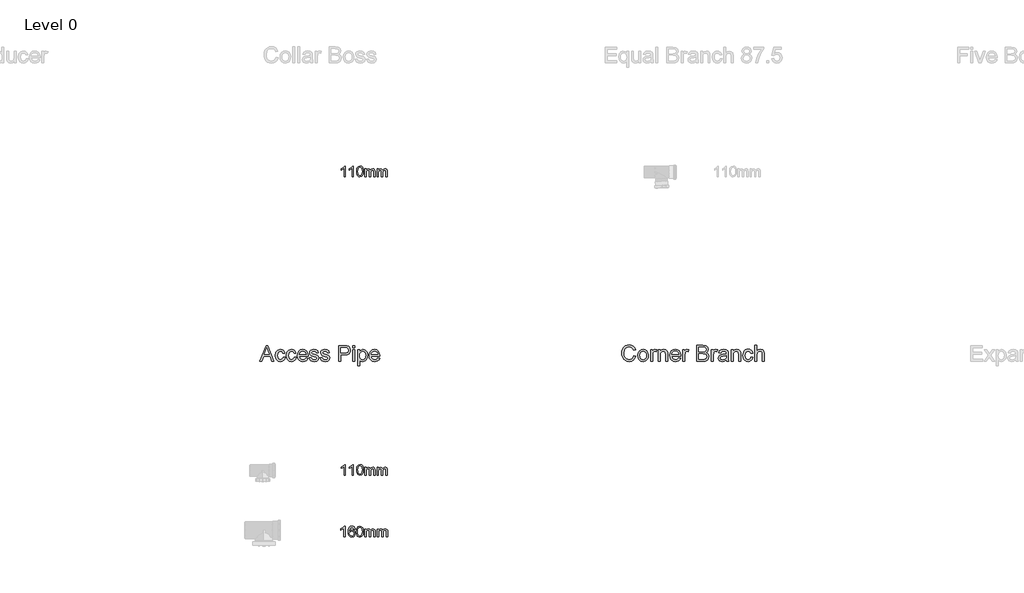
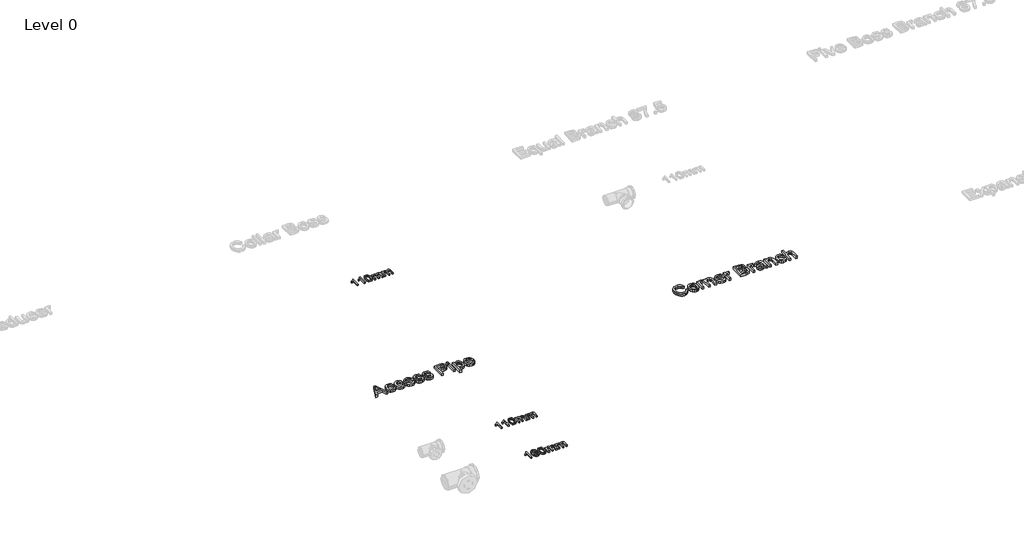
# One storey, part 7 of 15: 5 proxies.
"""IFC4 building model written with IfcOpenShell, lengths in millimetres."""

from ifc_helpers import new_model, si_unit, origin, origin_with_axes, place, context, project, spatial, polyline, outline, extrude, element, save

model = new_model("IFC4")

# Units and contexts
model_context = context("Model", 3, world=origin())
ifc_project = project(units=[si_unit("LENGTHUNIT", "METRE", prefix="MILLI")], contexts=[model_context])

# Site, building, storey
site = spatial("IfcSite", under=ifc_project)
building = spatial("IfcBuilding", under=site)
storey = spatial("IfcBuildingStorey", under=building, Name="Level 0", Elevation=0.0)

# Proxies
placement = place(None, origin())
element("IfcBuildingElementProxy", 1, Name="100mm Arial", ObjectType="100mm Arial", at=placement, inside=storey, context=model_context, shape_type="SweptSolid", body=[
    extrude(outline(polyline([(-13791.7293188, 2637.7167304), (-13804.0370111, 2637.7167304), (-13804.0370111, 2714.4474996), (-13815.6956649, 2706.1422111), (-13828.6523957, 2699.9282688), (-13828.6523957, 2711.5628842), (-13810.6115303, 2723.0773073), (-13799.6620111, 2736.1782688), (-13791.7293188, 2736.1782688), (-13791.7293188, 2637.7167304)])), origin_with_axes(), (0.0, 0.0, 1.0), 15.0),
    extrude(outline(polyline([(-13716.3447034, 2637.7167304), (-13728.6523957, 2637.7167304), (-13728.6523957, 2714.4474996), (-13740.3110495, 2706.1422111), (-13753.2677803, 2699.9282688), (-13753.2677803, 2711.5628842), (-13735.2269149, 2723.0773073), (-13724.2773957, 2736.1782688), (-13716.3447034, 2736.1782688), (-13716.3447034, 2637.7167304)])), origin_with_axes(), (0.0, 0.0, 1.0), 15.0),
    extrude(outline(polyline([(-13687.1139341, 2686.1542304), (-13683.4961457, 2714.4835573), (-13672.7509534, 2730.8176919), (-13654.8062418, 2736.1782688), (-13640.4312418, 2733.0051919), (-13630.5033572, 2723.8585573), (-13624.7341264, 2709.2912496), (-13622.4985495, 2686.1542304), (-13626.0802803, 2657.9450958), (-13636.7894149, 2641.5749035), (-13654.8062418, 2636.1782688), (-13667.5947034, 2638.5220188), (-13677.3062418, 2645.5532688), (-13684.6620111, 2662.2059131), (-13687.1139341, 2686.1542304)]), holes=[polyline([(-13674.8062418, 2686.1782688), (-13673.3639341, 2666.8182929), (-13669.0370111, 2655.613365), (-13662.5947034, 2650.2678121), (-13654.8062418, 2648.4859611), (-13647.0177803, 2650.2738217), (-13640.5754726, 2655.6374035), (-13636.2485495, 2666.848341), (-13634.8062418, 2686.1782688), (-13636.2004726, 2705.1025477), (-13640.3831649, 2716.394615), (-13646.8134534, 2722.0015861), (-13654.9504726, 2723.8705765), (-13662.6547995, 2722.2239419), (-13668.8447034, 2717.2840381), (-13673.3158572, 2705.2888458), (-13674.8062418, 2686.1782688)])]), origin_with_axes(), (0.0, 0.0, 1.0), 15.0),
    extrude(outline(polyline([(-13608.6523957, 2637.7167304), (-13608.6523957, 2710.0244227), (-13596.3447034, 2710.0244227), (-13596.3447034, 2698.1253842), (-13587.8831649, 2707.8729804), (-13575.8398957, 2711.5628842), (-13563.5081649, 2707.800865), (-13556.7293188, 2697.2599996), (-13547.1259534, 2707.9871631), (-13534.9985495, 2711.5628842), (-13525.7467466, 2710.0755044), (-13518.9047995, 2705.613365), (-13514.6770351, 2698.0562736), (-13513.2677803, 2687.2840381), (-13513.2677803, 2637.7167304), (-13525.5754726, 2637.7167304), (-13525.5754726, 2681.9955765), (-13526.7172995, 2692.2720188), (-13530.8519149, 2697.332115), (-13537.8831649, 2699.2551919), (-13549.9865303, 2694.3273073), (-13554.8062418, 2678.5340381), (-13554.8062418, 2637.7167304), (-13567.1139341, 2637.7167304), (-13567.1139341, 2683.3657688), (-13569.9624918, 2695.2888458), (-13579.3014341, 2699.2551919), (-13588.4120111, 2696.6109611), (-13594.4697034, 2688.8705765), (-13596.3447034, 2674.1830765), (-13596.3447034, 2637.7167304), (-13608.6523957, 2637.7167304)])), origin_with_axes(), (0.0, 0.0, 1.0), 15.0),
    extrude(outline(polyline([(-13494.8062418, 2637.7167304), (-13494.8062418, 2710.0244227), (-13482.4985495, 2710.0244227), (-13482.4985495, 2698.1253842), (-13474.0370111, 2707.8729804), (-13461.9937418, 2711.5628842), (-13449.6620111, 2707.800865), (-13442.8831649, 2697.2599996), (-13433.2797995, 2707.9871631), (-13421.1523957, 2711.5628842), (-13411.9005928, 2710.0755044), (-13405.0586457, 2705.613365), (-13400.8308813, 2698.0562736), (-13399.4216264, 2687.2840381), (-13399.4216264, 2637.7167304), (-13411.7293188, 2637.7167304), (-13411.7293188, 2681.9955765), (-13412.8711457, 2692.2720188), (-13417.0057611, 2697.332115), (-13424.0370111, 2699.2551919), (-13436.1403764, 2694.3273073), (-13440.960088, 2678.5340381), (-13440.960088, 2637.7167304), (-13453.2677803, 2637.7167304), (-13453.2677803, 2683.3657688), (-13456.116338, 2695.2888458), (-13465.4552803, 2699.2551919), (-13474.5658572, 2696.6109611), (-13480.6235495, 2688.8705765), (-13482.4985495, 2674.1830765), (-13482.4985495, 2637.7167304), (-13494.8062418, 2637.7167304)])), origin_with_axes(), (0.0, 0.0, 1.0), 15.0),
])
element("IfcBuildingElementProxy", 2, Name="100mm Arial", ObjectType="100mm Arial", at=placement, inside=storey, context=model_context, shape_type="SweptSolid", body=[
    extrude(outline(polyline([(-13791.7293188, 5437.7167304), (-13804.0370111, 5437.7167304), (-13804.0370111, 5514.4474996), (-13815.6956649, 5506.1422111), (-13828.6523957, 5499.9282688), (-13828.6523957, 5511.5628842), (-13810.6115303, 5523.0773073), (-13799.6620111, 5536.1782688), (-13791.7293188, 5536.1782688), (-13791.7293188, 5437.7167304)])), origin_with_axes(), (0.0, 0.0, 1.0), 15.0),
    extrude(outline(polyline([(-13716.3447034, 5437.7167304), (-13728.6523957, 5437.7167304), (-13728.6523957, 5514.4474996), (-13740.3110495, 5506.1422111), (-13753.2677803, 5499.9282688), (-13753.2677803, 5511.5628842), (-13735.2269149, 5523.0773073), (-13724.2773957, 5536.1782688), (-13716.3447034, 5536.1782688), (-13716.3447034, 5437.7167304)])), origin_with_axes(), (0.0, 0.0, 1.0), 15.0),
    extrude(outline(polyline([(-13687.1139341, 5486.1542304), (-13683.4961457, 5514.4835573), (-13672.7509534, 5530.8176919), (-13654.8062418, 5536.1782688), (-13640.4312418, 5533.0051919), (-13630.5033572, 5523.8585573), (-13624.7341264, 5509.2912496), (-13622.4985495, 5486.1542304), (-13626.0802803, 5457.9450958), (-13636.7894149, 5441.5749035), (-13654.8062418, 5436.1782688), (-13667.5947034, 5438.5220188), (-13677.3062418, 5445.5532688), (-13684.6620111, 5462.2059131), (-13687.1139341, 5486.1542304)]), holes=[polyline([(-13674.8062418, 5486.1782688), (-13673.3639341, 5466.8182929), (-13669.0370111, 5455.613365), (-13662.5947034, 5450.2678121), (-13654.8062418, 5448.4859611), (-13647.0177803, 5450.2738217), (-13640.5754726, 5455.6374035), (-13636.2485495, 5466.848341), (-13634.8062418, 5486.1782688), (-13636.2004726, 5505.1025477), (-13640.3831649, 5516.394615), (-13646.8134534, 5522.0015861), (-13654.9504726, 5523.8705765), (-13662.6547995, 5522.2239419), (-13668.8447034, 5517.2840381), (-13673.3158572, 5505.2888458), (-13674.8062418, 5486.1782688)])]), origin_with_axes(), (0.0, 0.0, 1.0), 15.0),
    extrude(outline(polyline([(-13608.6523957, 5437.7167304), (-13608.6523957, 5510.0244227), (-13596.3447034, 5510.0244227), (-13596.3447034, 5498.1253842), (-13587.8831649, 5507.8729804), (-13575.8398957, 5511.5628842), (-13563.5081649, 5507.800865), (-13556.7293188, 5497.2599996), (-13547.1259534, 5507.9871631), (-13534.9985495, 5511.5628842), (-13525.7467466, 5510.0755044), (-13518.9047995, 5505.613365), (-13514.6770351, 5498.0562736), (-13513.2677803, 5487.2840381), (-13513.2677803, 5437.7167304), (-13525.5754726, 5437.7167304), (-13525.5754726, 5481.9955765), (-13526.7172995, 5492.2720188), (-13530.8519149, 5497.332115), (-13537.8831649, 5499.2551919), (-13549.9865303, 5494.3273073), (-13554.8062418, 5478.5340381), (-13554.8062418, 5437.7167304), (-13567.1139341, 5437.7167304), (-13567.1139341, 5483.3657688), (-13569.9624918, 5495.2888458), (-13579.3014341, 5499.2551919), (-13588.4120111, 5496.6109611), (-13594.4697034, 5488.8705765), (-13596.3447034, 5474.1830765), (-13596.3447034, 5437.7167304), (-13608.6523957, 5437.7167304)])), origin_with_axes(), (0.0, 0.0, 1.0), 15.0),
    extrude(outline(polyline([(-13494.8062418, 5437.7167304), (-13494.8062418, 5510.0244227), (-13482.4985495, 5510.0244227), (-13482.4985495, 5498.1253842), (-13474.0370111, 5507.8729804), (-13461.9937418, 5511.5628842), (-13449.6620111, 5507.800865), (-13442.8831649, 5497.2599996), (-13433.2797995, 5507.9871631), (-13421.1523957, 5511.5628842), (-13411.9005928, 5510.0755044), (-13405.0586457, 5505.613365), (-13400.8308813, 5498.0562736), (-13399.4216264, 5487.2840381), (-13399.4216264, 5437.7167304), (-13411.7293188, 5437.7167304), (-13411.7293188, 5481.9955765), (-13412.8711457, 5492.2720188), (-13417.0057611, 5497.332115), (-13424.0370111, 5499.2551919), (-13436.1403764, 5494.3273073), (-13440.960088, 5478.5340381), (-13440.960088, 5437.7167304), (-13453.2677803, 5437.7167304), (-13453.2677803, 5483.3657688), (-13456.116338, 5495.2888458), (-13465.4552803, 5499.2551919), (-13474.5658572, 5496.6109611), (-13480.6235495, 5488.8705765), (-13482.4985495, 5474.1830765), (-13482.4985495, 5437.7167304), (-13494.8062418, 5437.7167304)])), origin_with_axes(), (0.0, 0.0, 1.0), 15.0),
])
element("IfcBuildingElementProxy", 3, Name="100mm Arial", ObjectType="100mm Arial", at=placement, inside=storey, context=model_context, shape_type="SweptSolid", body=[
    extrude(outline(polyline([(-13795.2669217, 2057.7167304), (-13807.8239604, 2057.7167304), (-13807.8239604, 2136.002019), (-13819.7188116, 2127.5284703), (-13832.938038, 2121.1886373), (-13832.938038, 2133.058963), (-13814.5316755, 2144.8066614), (-13803.3603256, 2158.1730405), (-13795.2669217, 2158.1730405), (-13795.2669217, 2057.7167304)])), origin_with_axes(), (0.0, 0.0, 1.0), 15.0),
    extrude(outline(polyline([(-13701.0891309, 2131.4893331), (-13713.6461697, 2129.9197033), (-13718.4041101, 2140.3920774), (-13730.9856744, 2145.6160018), (-13742.3164398, 2142.5748439), (-13750.8880903, 2131.1582393), (-13754.4565457, 2108.7787513), (-13743.3832976, 2118.7974043), (-13729.6612992, 2122.0715541), (-13718.0607536, 2119.8336053), (-13708.3241435, 2113.1197589), (-13701.7206617, 2102.8619826), (-13699.5195011, 2089.9922441), (-13703.6643049, 2072.6650021), (-13715.0686467, 2060.4022689), (-13731.5252346, 2056.1471005), (-13745.7714649, 2058.9675292), (-13757.1175588, 2067.4288151), (-13764.539578, 2082.3648241), (-13767.0135844, 2104.609422), (-13764.2667322, 2129.6192663), (-13756.0261755, 2146.7196477), (-13744.7751178, 2155.3096923), (-13730.2008595, 2158.1730405), (-13719.1827937, 2156.4010756), (-13710.3597572, 2151.0851808), (-13704.1793397, 2142.642289), (-13701.0891309, 2131.4893331)]), holes=[polyline([(-13754.4565457, 2090.1884478), (-13751.5502779, 2079.3114035), (-13743.824756, 2071.4142033), (-13732.5062533, 2068.7041393), (-13724.2197114, 2070.1082222), (-13717.7051344, 2074.3204711), (-13713.4836885, 2080.942347), (-13712.0765398, 2089.5753112), (-13713.4652944, 2097.8618531), (-13717.631558, 2104.1802264), (-13724.2564996, 2108.1809431), (-13733.0212881, 2109.5145153), (-13748.2148145, 2104.1802264), (-13752.8961129, 2098.0151373), (-13754.4565457, 2090.1884478)])]), origin_with_axes(), (0.0, 0.0, 1.0), 15.0),
    extrude(outline(polyline([(-13688.5320921, 2107.1355451), (-13684.8410095, 2136.0388072), (-13673.878126, 2152.7038615), (-13655.5698654, 2158.1730405), (-13640.9036365, 2154.935679), (-13630.7746189, 2145.603739), (-13624.888507, 2130.7413064), (-13622.6076386, 2107.1355451), (-13626.2619331, 2078.3549103), (-13637.1880283, 2061.6530677), (-13645.419388, 2057.5235923), (-13655.5698654, 2056.1471005), (-13668.6174135, 2058.5383335), (-13678.5257019, 2065.7120324), (-13686.0304946, 2082.7020492), (-13688.5320921, 2107.1355451)]), holes=[polyline([(-13675.9750534, 2107.1600705), (-13674.5035254, 2087.4078731), (-13670.0889414, 2075.9759401), (-13663.5161165, 2070.5220895), (-13655.5698654, 2068.7041393), (-13647.6236143, 2070.5282209), (-13641.0507893, 2076.0004655), (-13636.6362053, 2087.4385299), (-13635.1646774, 2107.1600705), (-13636.5871544, 2126.4677439), (-13640.8545856, 2137.9885817), (-13647.4151478, 2143.7091468), (-13655.7170182, 2145.6160018), (-13663.5774301, 2143.9360073), (-13669.8927377, 2138.896024), (-13674.4544745, 2126.6578163), (-13675.9750534, 2107.1600705)])]), origin_with_axes(), (0.0, 0.0, 1.0), 15.0),
    extrude(outline(polyline([(-13608.48097, 2057.7167304), (-13608.48097, 2131.4893331), (-13595.9239312, 2131.4893331), (-13595.9239312, 2119.3492273), (-13587.2909671, 2129.2943039), (-13575.0037084, 2133.058963), (-13562.4221442, 2129.2207275), (-13555.5059627, 2118.4663105), (-13545.7080389, 2129.4107999), (-13533.3349411, 2133.058963), (-13523.8957022, 2131.5414498), (-13516.9151414, 2126.9889101), (-13512.601725, 2119.2787166), (-13511.1639195, 2108.288242), (-13511.1639195, 2057.7167304), (-13523.7209583, 2057.7167304), (-13523.7209583, 2102.8926394), (-13524.8859179, 2113.3772762), (-13529.1042982, 2118.5398869), (-13536.2779971, 2120.5019242), (-13548.6265694, 2115.4742036), (-13552.3145864, 2108.9320355), (-13553.5439254, 2099.3609722), (-13553.5439254, 2057.7167304), (-13566.1009641, 2057.7167304), (-13566.1009641, 2104.290591), (-13569.0072319, 2116.4552223), (-13578.5353756, 2120.5019242), (-13587.8305273, 2117.8041229), (-13594.0109448, 2109.9069228), (-13595.9239312, 2094.9218628), (-13595.9239312, 2057.7167304), (-13608.48097, 2057.7167304)])), origin_with_axes(), (0.0, 0.0, 1.0), 15.0),
    extrude(outline(polyline([(-13492.3283614, 2057.7167304), (-13492.3283614, 2131.4893331), (-13479.7713226, 2131.4893331), (-13479.7713226, 2119.3492273), (-13471.1383585, 2129.2943039), (-13458.8510998, 2133.058963), (-13446.2695356, 2129.2207275), (-13439.3533541, 2118.4663105), (-13429.5554303, 2129.4107999), (-13417.1823325, 2133.058963), (-13407.7430936, 2131.5414498), (-13400.7625328, 2126.9889101), (-13396.4491164, 2119.2787166), (-13395.0113109, 2108.288242), (-13395.0113109, 2057.7167304), (-13407.5683497, 2057.7167304), (-13407.5683497, 2102.8926394), (-13408.7333093, 2113.3772762), (-13412.9516895, 2118.5398869), (-13420.1253885, 2120.5019242), (-13432.4739608, 2115.4742036), (-13436.1619778, 2108.9320355), (-13437.3913168, 2099.3609722), (-13437.3913168, 2057.7167304), (-13449.9483555, 2057.7167304), (-13449.9483555, 2104.290591), (-13452.8546233, 2116.4552223), (-13462.382767, 2120.5019242), (-13471.6779187, 2117.8041229), (-13477.8583362, 2109.9069228), (-13479.7713226, 2094.9218628), (-13479.7713226, 2057.7167304), (-13492.3283614, 2057.7167304)])), origin_with_axes(), (0.0, 0.0, 1.0), 15.0),
])
element("IfcBuildingElementProxy", 4, Name="150mm Arial", ObjectType="150mm Arial", at=placement, inside=storey, context=model_context, shape_type="SweptSolid", body=[
    extrude(outline(polyline([(-14595.4967397, 3705.2145219), (-14536.5424127, 3852.9068296), (-14520.8212589, 3852.9068296), (-14461.866932, 3705.2145219), (-14481.3741435, 3705.2145219), (-14498.2852012, 3751.3683681), (-14559.1145281, 3751.3683681), (-14575.9895281, 3705.2145219), (-14595.4967397, 3705.2145219)]), holes=[polyline([(-14552.335682, 3769.8299065), (-14505.0279897, 3769.8299065), (-14518.3332781, 3806.1400027), (-14528.6818358, 3834.4452911), (-14537.8765473, 3809.3130796), (-14552.335682, 3769.8299065)])]), origin_with_axes(), (0.0, 0.0, 1.0), 25.0),
    extrude(outline(polyline([(-14375.2202973, 3744.4452911), (-14356.7587589, 3742.1375988), (-14361.9059945, 3725.7178272), (-14371.5784704, 3713.3094738), (-14384.86573, 3705.5074907), (-14400.8573166, 3702.9068296), (-14420.4952372, 3706.5351349), (-14435.851307, 3717.4200508), (-14445.7626651, 3735.0838128), (-14449.0664512, 3759.0486565), (-14443.4234223, 3789.7157238), (-14436.3020281, 3801.2136205), (-14426.2239031, 3809.4212527), (-14414.1671122, 3814.3431277), (-14401.1097204, 3815.9837527), (-14385.5102613, 3813.7301469), (-14373.038807, 3806.9693296), (-14364.0919921, 3796.0618777), (-14359.0664512, 3781.3683681), (-14377.5279897, 3779.0606758), (-14386.0916916, 3792.8888008), (-14400.9654897, 3797.5222142), (-14412.8960786, 3795.2415652), (-14422.36573, 3788.3996181), (-14428.5451171, 3776.6267815), (-14430.6049127, 3759.5534642), (-14428.5901892, 3742.2502791), (-14422.5460185, 3730.4368777), (-14413.2476411, 3723.6354955), (-14401.4702973, 3721.3683681), (-14391.9105017, 3722.7836325), (-14384.0724608, 3727.0294258), (-14378.3708382, 3734.213921), (-14375.2202973, 3744.4452911)])), origin_with_axes(), (0.0, 0.0, 1.0), 25.0),
    extrude(outline(polyline([(-14271.3741435, 3744.4452911), (-14252.912605, 3742.1375988), (-14258.0598406, 3725.7178272), (-14267.7323166, 3713.3094738), (-14281.0195762, 3705.5074907), (-14297.0111627, 3702.9068296), (-14316.6490834, 3706.5351349), (-14332.0051531, 3717.4200508), (-14341.9165113, 3735.0838128), (-14345.2202973, 3759.0486565), (-14339.5772685, 3789.7157238), (-14332.4558743, 3801.2136205), (-14322.3777493, 3809.4212527), (-14310.3209584, 3814.3431277), (-14297.2635666, 3815.9837527), (-14281.6641074, 3813.7301469), (-14269.1926531, 3806.9693296), (-14260.2458382, 3796.0618777), (-14255.2202973, 3781.3683681), (-14273.6818358, 3779.0606758), (-14282.2455377, 3792.8888008), (-14297.1193358, 3797.5222142), (-14309.0499247, 3795.2415652), (-14318.5195762, 3788.3996181), (-14324.6989632, 3776.6267815), (-14326.7587589, 3759.5534642), (-14324.7440353, 3742.2502791), (-14318.6998647, 3730.4368777), (-14309.4014872, 3723.6354955), (-14297.6241435, 3721.3683681), (-14288.0643478, 3722.7836325), (-14280.226307, 3727.0294258), (-14274.5246844, 3734.213921), (-14271.3741435, 3744.4452911)])), origin_with_axes(), (0.0, 0.0, 1.0), 25.0),
    extrude(outline(polyline([(-14160.8212589, 3737.5222142), (-14142.7202973, 3735.2145219), (-14149.2422324, 3721.5756998), (-14159.6493839, 3711.3803873), (-14173.7073767, 3705.025219), (-14191.1818358, 3702.9068296), (-14212.8434945, 3706.5621782), (-14229.5111627, 3717.5282238), (-14240.1391675, 3735.0928272), (-14243.6818358, 3758.5438488), (-14240.1031098, 3782.7836325), (-14229.366932, 3800.9116373), (-14212.9246243, 3812.2157238), (-14192.2275089, 3815.9837527), (-14172.1749247, 3812.2247383), (-14156.1517877, 3800.947695), (-14145.6454776, 3782.8557479), (-14142.1433743, 3758.6520219), (-14142.2515473, 3753.6760604), (-14225.2202973, 3753.6760604), (-14222.0246844, 3739.8569498), (-14214.601307, 3729.697695), (-14203.8876651, 3723.4506998), (-14190.8212589, 3721.3683681), (-14172.7202973, 3725.2265411), (-14160.8212589, 3737.5222142)]), holes=[polyline([(-14225.2202973, 3772.1375988), (-14160.6049127, 3772.1375988), (-14163.1019079, 3781.8912046), (-14167.9967397, 3788.8683681), (-14178.7599608, 3795.3587527), (-14192.2996243, 3797.5222142), (-14204.7440353, 3795.7959522), (-14215.0339993, 3790.6171661), (-14222.186944, 3782.5447503), (-14225.2202973, 3772.1375988)])]), origin_with_axes(), (0.0, 0.0, 1.0), 25.0),
    extrude(outline(polyline([(-14130.6049127, 3737.5222142), (-14112.1433743, 3739.8299065), (-14109.2317156, 3731.9332719), (-14103.5977012, 3726.1279835), (-14084.0183743, 3721.3683681), (-14065.1962589, 3725.7313488), (-14059.0664512, 3735.9717335), (-14065.2323166, 3744.2650027), (-14084.2347204, 3749.5294258), (-14112.0352012, 3758.5618777), (-14124.1686147, 3769.1087527), (-14128.2972204, 3784.0005796), (-14124.9799127, 3797.7565892), (-14115.929432, 3808.2674065), (-14104.1926531, 3813.7301469), (-14088.3092397, 3815.9837527), (-14065.8452973, 3812.3599546), (-14051.5664512, 3802.5522623), (-14045.2202973, 3785.9837527), (-14063.6818358, 3783.6760604), (-14070.6229416, 3793.8623585), (-14086.866932, 3797.5222142), (-14104.5352012, 3794.0246181), (-14109.835682, 3785.8755796), (-14107.6361627, 3780.5029835), (-14100.7491435, 3776.4284642), (-14084.8477012, 3772.4981758), (-14057.7503454, 3763.8082719), (-14045.1662108, 3753.9645219), (-14040.6049127, 3737.9188488), (-14045.95948, 3720.2505796), (-14061.4102012, 3707.43207), (-14084.2707781, 3702.9068296), (-14102.8855618, 3705.08832), (-14116.4702973, 3711.6327911), (-14125.538807, 3722.4681277), (-14130.6049127, 3737.5222142)])), origin_with_axes(), (0.0, 0.0, 1.0), 25.0),
    extrude(outline(polyline([(-14026.7587589, 3737.5222142), (-14008.2972204, 3739.8299065), (-14005.3855618, 3731.9332719), (-13999.7515473, 3726.1279835), (-13980.1722204, 3721.3683681), (-13961.350105, 3725.7313488), (-13955.2202973, 3735.9717335), (-13961.3861627, 3744.2650027), (-13980.3885666, 3749.5294258), (-14008.1890473, 3758.5618777), (-14020.3224608, 3769.1087527), (-14024.4510666, 3784.0005796), (-14021.1337589, 3797.7565892), (-14012.0832781, 3808.2674065), (-14000.3464993, 3813.7301469), (-13984.4630858, 3815.9837527), (-13961.9991435, 3812.3599546), (-13947.7202973, 3802.5522623), (-13941.3741435, 3785.9837527), (-13959.835682, 3783.6760604), (-13966.7767877, 3793.8623585), (-13983.0207781, 3797.5222142), (-14000.6890473, 3794.0246181), (-14005.9895281, 3785.8755796), (-14003.7900089, 3780.5029835), (-13996.9029897, 3776.4284642), (-13981.0015473, 3772.4981758), (-13953.9041916, 3763.8082719), (-13941.320057, 3753.9645219), (-13936.7587589, 3737.9188488), (-13942.1133262, 3720.2505796), (-13957.5640473, 3707.43207), (-13980.4246243, 3702.9068296), (-13999.0394079, 3705.08832), (-14012.6241435, 3711.6327911), (-14021.6926531, 3722.4681277), (-14026.7587589, 3737.5222142)])), origin_with_axes(), (0.0, 0.0, 1.0), 25.0),
    extrude(outline(polyline([(-13855.9895281, 3705.2145219), (-13855.9895281, 3852.9068296), (-13801.2539512, 3852.9068296), (-13779.1866435, 3851.5005796), (-13761.2479416, 3844.5955315), (-13749.6193358, 3830.3166854), (-13745.2202973, 3810.1784642), (-13748.1905497, 3792.7716133), (-13757.101307, 3778.2674065), (-13773.764468, 3768.4777431), (-13799.991932, 3765.2145219), (-13837.5279897, 3765.2145219), (-13837.5279897, 3705.2145219), (-13855.9895281, 3705.2145219)]), holes=[polyline([(-13837.5279897, 3783.6760604), (-13798.9102012, 3783.6760604), (-13782.5400089, 3785.3707719), (-13771.7227012, 3790.4549065), (-13765.6920522, 3798.6129594), (-13763.6818358, 3809.5294258), (-13768.4234223, 3824.8178873), (-13780.881355, 3833.1832719), (-13799.3428935, 3834.4452911), (-13837.5279897, 3834.4452911), (-13837.5279897, 3783.6760604)])]), origin_with_axes(), (0.0, 0.0, 1.0), 25.0),
    extrude(outline(polyline([(-13722.1433743, 3705.2145219), (-13722.1433743, 3813.6760604), (-13703.6818358, 3813.6760604), (-13703.6818358, 3705.2145219), (-13722.1433743, 3705.2145219)])), origin_with_axes(), (0.0, 0.0, 1.0), 25.0),
    extrude(outline(polyline([(-13722.1433743, 3834.4452911), (-13722.1433743, 3852.9068296), (-13703.6818358, 3852.9068296), (-13703.6818358, 3834.4452911), (-13722.1433743, 3834.4452911)])), origin_with_axes(), (0.0, 0.0, 1.0), 25.0),
    extrude(outline(polyline([(-13675.9895281, 3663.6760604), (-13675.9895281, 3813.6760604), (-13657.5279897, 3813.6760604), (-13657.5279897, 3795.5750988), (-13644.7635666, 3810.8815892), (-13627.5279897, 3815.9837527), (-13615.0430137, 3814.1988969), (-13604.1265473, 3808.8443296), (-13595.2383262, 3800.24457), (-13588.8380858, 3788.7241373), (-13583.6818358, 3760.2746181), (-13585.1376651, 3744.4858561), (-13589.5051531, 3730.3647623), (-13596.6445762, 3718.6279835), (-13606.4162108, 3709.9921661), (-13617.7969199, 3704.6781637), (-13629.7635666, 3702.9068296), (-13645.8272685, 3707.6484161), (-13657.5279897, 3719.6375988), (-13657.5279897, 3663.6760604), (-13675.9895281, 3663.6760604)]), holes=[polyline([(-13657.5279897, 3758.5799065), (-13655.5312949, 3742.0294258), (-13649.5412108, 3730.4549065), (-13640.702569, 3723.6400027), (-13630.1602012, 3721.3683681), (-13619.4465594, 3723.7211325), (-13610.382557, 3730.7794258), (-13604.2031699, 3742.7776229), (-13602.1433743, 3759.9500988), (-13604.1535906, 3776.4104354), (-13610.1842397, 3788.1472142), (-13619.0093598, 3795.1784642), (-13629.4029897, 3797.5222142), (-13639.8371844, 3795.0297262), (-13649.0003454, 3787.5522623), (-13655.3960786, 3775.3241974), (-13657.5279897, 3758.5799065)])]), origin_with_axes(), (0.0, 0.0, 1.0), 25.0),
    extrude(outline(polyline([(-13486.975105, 3737.5222142), (-13468.8741435, 3735.2145219), (-13475.3960786, 3721.5756998), (-13485.80323, 3711.3803873), (-13499.8612228, 3705.025219), (-13517.335682, 3702.9068296), (-13538.9973406, 3706.5621782), (-13555.6650089, 3717.5282238), (-13566.2930137, 3735.0928272), (-13569.835682, 3758.5438488), (-13566.256956, 3782.7836325), (-13555.5207781, 3800.9116373), (-13539.0784704, 3812.2157238), (-13518.381355, 3815.9837527), (-13498.3287709, 3812.2247383), (-13482.3056339, 3800.947695), (-13471.7993238, 3782.8557479), (-13468.2972204, 3758.6520219), (-13468.4053935, 3753.6760604), (-13551.3741435, 3753.6760604), (-13548.1785305, 3739.8569498), (-13540.7551531, 3729.697695), (-13530.0415113, 3723.4506998), (-13516.975105, 3721.3683681), (-13498.8741435, 3725.2265411), (-13486.975105, 3737.5222142)]), holes=[polyline([(-13551.3741435, 3772.1375988), (-13486.7587589, 3772.1375988), (-13489.2557541, 3781.8912046), (-13494.1505858, 3788.8683681), (-13504.913807, 3795.3587527), (-13518.4534704, 3797.5222142), (-13530.8978815, 3795.7959522), (-13541.1878454, 3790.6171661), (-13548.3407901, 3782.5447503), (-13551.3741435, 3772.1375988)])]), origin_with_axes(), (0.0, 0.0, 1.0), 25.0),
])
element("IfcBuildingElementProxy", 5, Name="150mm Arial", ObjectType="150mm Arial", at=placement, inside=storey, context=model_context, shape_type="SweptSolid", body=[
    extrude(outline(polyline([(-11085.8926391, 3758.7781404), (-11067.0570809, 3753.9220981), (-11075.7482931, 3731.9733385), (-11089.387518, 3715.9382821), (-11107.3033712, 3706.1296284), (-11128.8244679, 3702.8600771), (-11150.6720599, 3705.3340836), (-11168.0222945, 3712.7561028), (-11181.3212286, 3724.8686175), (-11191.0149192, 3741.4141102), (-11196.9332208, 3760.8658707), (-11198.905988, 3781.6971887), (-11196.6757034, 3803.6689409), (-11189.9848496, 3822.6424548), (-11179.1829145, 3838.0153237), (-11164.6193861, 3849.1851407), (-11147.3473264, 3855.9863591), (-11128.4197977, 3858.2534319), (-11107.7678222, 3855.319573), (-11090.6934991, 3846.5179963), (-11077.7302573, 3832.3913277), (-11069.4115257, 3813.4821931), (-11088.2470839, 3808.9940328), (-11094.7769893, 3822.7298268), (-11103.6981277, 3832.1522044), (-11115.1208636, 3837.6014564), (-11129.1555617, 3839.4178738), (-11145.3331725, 3837.4037198), (-11158.6229095, 3831.3612581), (-11168.7074747, 3821.9250849), (-11175.2695698, 3809.7297967), (-11180.0704299, 3781.7339769), (-11178.6494856, 3764.3331585), (-11174.386653, 3749.2867849), (-11167.1209836, 3737.1696717), (-11156.6915291, 3728.5566345), (-11144.1881397, 3723.4108851), (-11130.7006661, 3721.6956353), (-11114.9783093, 3724.031686), (-11101.8771118, 3731.039838), (-11091.9856846, 3742.6465149), (-11085.8926391, 3758.7781404)])), origin_with_axes(), (0.0, 0.0, 1.0), 25.0),
    extrude(outline(polyline([(-11048.2215228, 3760.543974), (-11044.1472297, 3787.2246157), (-11031.9243504, 3805.9774004), (-11016.8227945, 3815.1652532), (-10998.7413944, 3818.2278708), (-10978.9539416, 3814.4984671), (-10963.1488114, 3803.3102559), (-10952.7883347, 3785.5461541), (-10949.3348425, 3762.0890784), (-10950.8615528, 3743.0603822), (-10955.4416836, 3728.5750286), (-10962.9418778, 3717.7271083), (-10973.2287781, 3709.6107118), (-10985.4470588, 3704.5477358), (-10998.7413944, 3702.8600771), (-11018.7679705, 3706.5756853), (-11034.5547067, 3717.7225098), (-11044.8048188, 3735.8590921), (-11048.2215228, 3760.543974)]), holes=[polyline([(-11029.3859646, 3760.5807622), (-11027.2062638, 3743.5340302), (-11020.6671613, 3731.3893259), (-11010.826318, 3724.1190579), (-10998.7413944, 3721.6956353), (-10986.7116532, 3724.1328535), (-10976.8892039, 3731.4445082), (-10970.3501015, 3743.7501609), (-10968.1704006, 3761.1693734), (-10970.363897, 3777.7194646), (-10976.9443862, 3789.6986221), (-10986.7806311, 3796.96889), (-10998.7413944, 3799.3923127), (-11010.826318, 3796.9780871), (-11020.6671613, 3789.7354103), (-11027.2062638, 3777.6182971), (-11029.3859646, 3760.5807622)])]), origin_with_axes(), (0.0, 0.0, 1.0), 25.0),
    extrude(outline(polyline([(-10928.1448396, 3705.2145219), (-10928.1448396, 3815.8734261), (-10911.6637262, 3815.8734261), (-10911.6637262, 3799.5026773), (-10899.9650787, 3814.5858391), (-10888.1928549, 3818.2278708), (-10869.2837203, 3812.4153353), (-10875.5745024, 3795.5295517), (-10888.8182543, 3799.3923127), (-10899.468438, 3795.6767045), (-10906.2558608, 3785.3760087), (-10909.3092814, 3763.3766654), (-10909.3092814, 3705.2145219), (-10928.1448396, 3705.2145219)])), origin_with_axes(), (0.0, 0.0, 1.0), 25.0),
    extrude(outline(polyline([(-10857.5114965, 3705.2145219), (-10857.5114965, 3815.8734261), (-10838.6759383, 3815.8734261), (-10838.6759383, 3800.4223823), (-10824.2733582, 3813.7764987), (-10804.6100656, 3818.2278708), (-10786.8229711, 3814.6410214), (-10774.6828653, 3805.2232423), (-10769.0358766, 3791.3724852), (-10768.0425953, 3773.1623264), (-10768.0425953, 3705.2145219), (-10786.8781534, 3705.2145219), (-10786.8781534, 3770.6239407), (-10789.0486572, 3787.288995), (-10796.7189968, 3796.0997688), (-10809.6500489, 3799.3923127), (-10820.6819102, 3797.5437057), (-10830.0858937, 3791.9978846), (-10836.5284272, 3781.2833215), (-10838.6759383, 3763.9284883), (-10838.6759383, 3705.2145219), (-10857.5114965, 3705.2145219)])), origin_with_axes(), (0.0, 0.0, 1.0), 25.0),
    extrude(outline(polyline([(-10664.6677546, 3738.1767487), (-10646.2000785, 3735.8223039), (-10652.854144, 3721.9071674), (-10663.4721381, 3711.505304), (-10677.8149374, 3705.0213839), (-10695.6434186, 3702.8600771), (-10717.7439295, 3706.5894809), (-10734.7492747, 3717.7776921), (-10745.5925965, 3735.6981437), (-10749.2070371, 3759.624269), (-10745.5558083, 3784.3551361), (-10734.6021219, 3802.8504034), (-10717.8267029, 3814.383504), (-10696.7102764, 3818.2278708), (-10676.2514389, 3814.392701), (-10659.9036828, 3802.8871916), (-10649.1845211, 3784.4287125), (-10645.6114673, 3759.7346336), (-10645.7218319, 3754.6578621), (-10730.3714789, 3754.6578621), (-10727.1111248, 3740.5587846), (-10719.5373542, 3730.1937094), (-10708.6066604, 3723.8201538), (-10695.2755366, 3721.6956353), (-10676.8078605, 3725.6319727), (-10664.6677546, 3738.1767487)]), holes=[polyline([(-10730.3714789, 3773.4934202), (-10664.4470254, 3773.4934202), (-10666.9946082, 3783.4446282), (-10671.9886063, 3790.5631448), (-10682.9698839, 3797.1850207), (-10696.7838528, 3799.3923127), (-10709.4803801, 3797.6310776), (-10719.9788126, 3792.3473725), (-10727.2766717, 3784.1114143), (-10730.3714789, 3773.4934202)])]), origin_with_axes(), (0.0, 0.0, 1.0), 25.0),
    extrude(outline(polyline([(-10626.7759091, 3705.2145219), (-10626.7759091, 3815.8734261), (-10610.2947957, 3815.8734261), (-10610.2947957, 3799.5026773), (-10598.5961483, 3814.5858391), (-10586.8239244, 3818.2278708), (-10567.9147899, 3812.4153353), (-10574.205572, 3795.5295517), (-10587.4493238, 3799.3923127), (-10598.0995076, 3795.6767045), (-10604.8869304, 3785.3760087), (-10607.940351, 3763.3766654), (-10607.940351, 3705.2145219), (-10626.7759091, 3705.2145219)])), origin_with_axes(), (0.0, 0.0, 1.0), 25.0),
    extrude(outline(polyline([(-10494.927002, 3705.2145219), (-10494.927002, 3855.8989871), (-10437.4270462, 3855.8989871), (-10409.2656795, 3851.4660091), (-10399.8019151, 3845.8420131), (-10392.6374133, 3837.8359812), (-10386.6225427, 3818.5589646), (-10391.6809201, 3800.9558112), (-10406.966417, 3787.6200888), (-10396.2932406, 3782.0466766), (-10388.4067703, 3773.5669966), (-10383.5369324, 3762.7420689), (-10381.9136531, 3750.1329135), (-10386.3466312, 3729.8810097), (-10397.3279087, 3715.4600355), (-10413.7170516, 3707.80809), (-10437.8685046, 3705.2145219), (-10494.927002, 3705.2145219)]), holes=[polyline([(-10476.0914439, 3724.0500801), (-10437.4638344, 3724.0500801), (-10423.4843186, 3724.7858441), (-10411.6569124, 3728.8877283), (-10403.8210259, 3737.2570437), (-10400.7492113, 3749.9489725), (-10404.3544548, 3764.5906759), (-10416.0347082, 3773.3278733), (-10439.3032444, 3775.847865), (-10476.0914439, 3775.847865), (-10476.0914439, 3724.0500801)]), polyline([(-10476.0914439, 3794.6834231), (-10441.6944773, 3794.6834231), (-10421.6081204, 3796.3021039), (-10409.5231969, 3803.2734677), (-10405.4581008, 3815.5423323), (-10409.2472854, 3827.8295909), (-10420.0998042, 3835.0952603), (-10444.3064395, 3837.063429), (-10476.0914439, 3837.063429), (-10476.0914439, 3794.6834231)])]), origin_with_axes(), (0.0, 0.0, 1.0), 25.0),
    extrude(outline(polyline([(-10358.3692054, 3705.2145219), (-10358.3692054, 3815.8734261), (-10341.888092, 3815.8734261), (-10341.888092, 3799.5026773), (-10330.1894446, 3814.5858391), (-10318.4172208, 3818.2278708), (-10299.5080862, 3812.4153353), (-10305.7988683, 3795.5295517), (-10319.0426201, 3799.3923127), (-10329.6928039, 3795.6767045), (-10336.4802267, 3785.3760087), (-10339.5336473, 3763.3766654), (-10339.5336473, 3705.2145219), (-10358.3692054, 3705.2145219)])), origin_with_axes(), (0.0, 0.0, 1.0), 25.0),
    extrude(outline(polyline([(-10217.1025193, 3719.3411905), (-10235.3678603, 3706.5756853), (-10255.5461878, 3702.8600771), (-10271.2869386, 3705.0949603), (-10282.8982141, 3711.7996096), (-10290.0581174, 3721.9807438), (-10292.4447519, 3734.6450815), (-10288.8395083, 3749.5443023), (-10279.366547, 3760.360033), (-10266.1779774, 3766.5404505), (-10249.880805, 3769.3731419), (-10217.2128839, 3775.847865), (-10217.1025193, 3780.0417197), (-10218.3993033, 3788.4478233), (-10222.2896554, 3793.9476592), (-10230.9900646, 3798.0311493), (-10243.1117763, 3799.3923127), (-10262.1680637, 3795.768675), (-10271.254749, 3782.9111993), (-10290.0903071, 3785.2656441), (-10281.9417209, 3803.6597438), (-10265.5341839, 3814.4386863), (-10240.6837552, 3818.2278708), (-10217.8566774, 3814.8801447), (-10204.9624134, 3806.4740411), (-10199.1866661, 3793.6901418), (-10198.2669611, 3777.2090284), (-10198.2669611, 3753.7749453), (-10197.3104679, 3721.0518418), (-10193.5580716, 3705.2145219), (-10212.3936297, 3705.2145219), (-10217.1025193, 3719.3411905)]), holes=[polyline([(-10217.1025193, 3757.0123068), (-10247.4895721, 3751.2365595), (-10263.694774, 3748.183139), (-10271.0340198, 3743.216732), (-10273.6091937, 3735.9694567), (-10267.9989933, 3725.7791254), (-10251.536274, 3721.6956353), (-10232.4799867, 3726.2021897), (-10220.192728, 3737.1098909), (-10217.2128839, 3751.6780179), (-10217.1025193, 3757.0123068)])]), origin_with_axes(), (0.0, 0.0, 1.0), 25.0),
    extrude(outline(polyline([(-10172.3680687, 3705.2145219), (-10172.3680687, 3815.8734261), (-10153.5325105, 3815.8734261), (-10153.5325105, 3800.4223823), (-10139.1299304, 3813.7764987), (-10119.4666378, 3818.2278708), (-10101.6795433, 3814.6410214), (-10089.5394375, 3805.2232423), (-10083.8924488, 3791.3724852), (-10082.8991674, 3773.1623264), (-10082.8991674, 3705.2145219), (-10101.7347256, 3705.2145219), (-10101.7347256, 3770.6239407), (-10103.9052294, 3787.288995), (-10111.575569, 3796.0997688), (-10124.5066211, 3799.3923127), (-10135.5384824, 3797.5437057), (-10144.9424659, 3791.9978846), (-10151.3849994, 3781.2833215), (-10153.5325105, 3763.9284883), (-10153.5325105, 3705.2145219), (-10172.3680687, 3705.2145219)])), origin_with_axes(), (0.0, 0.0, 1.0), 25.0),
    extrude(outline(polyline([(-9986.3669319, 3745.240083), (-9967.5313738, 3742.8856382), (-9972.7828892, 3726.1332119), (-9982.6513238, 3713.4734727), (-9996.2077753, 3705.513426), (-10012.5233418, 3702.8600771), (-10032.5591149, 3706.5618897), (-10048.2262894, 3717.6673275), (-10058.3384457, 3735.6889467), (-10061.7091645, 3760.1393038), (-10060.2698262, 3776.9009272), (-10055.9518113, 3791.4276675), (-10048.6861419, 3803.1585046), (-10038.4038401, 3811.5324185), (-10026.1027859, 3816.5540078), (-10012.7808592, 3818.2278708), (-9996.8653643, 3815.9286084), (-9984.1412458, 3809.030821), (-9975.0131738, 3797.9023906), (-9969.8858185, 3782.9111993), (-9988.7213767, 3780.5567545), (-9997.4585741, 3794.665029), (-10012.6337064, 3799.3923127), (-10024.8060019, 3797.0654591), (-10034.4675028, 3790.0848982), (-10040.7720805, 3778.0735511), (-10042.8736064, 3760.6543386), (-10040.8180657, 3743.0006013), (-10034.6514438, 3730.9478675), (-10025.1646868, 3724.0086933), (-10013.1487412, 3721.6956353), (-10003.3952698, 3723.1395721), (-9995.3984349, 3727.4713826), (-9989.5813008, 3734.8014314), (-9986.3669319, 3745.240083)])), origin_with_axes(), (0.0, 0.0, 1.0), 25.0),
    extrude(outline(polyline([(-9951.0502604, 3705.2145219), (-9951.0502604, 3855.8989871), (-9932.2147022, 3855.8989871), (-9932.2147022, 3800.4959587), (-9917.5270136, 3813.7948928), (-9899.4364164, 3818.2278708), (-9878.2832017, 3813.3902226), (-9865.4441201, 3800.0177121), (-9861.5813591, 3775.2592538), (-9861.5813591, 3705.2145219), (-9880.4169173, 3705.2145219), (-9880.4169173, 3773.3094792), (-9881.9160364, 3785.1000972), (-9886.4133938, 3793.175107), (-9893.6606691, 3797.8380113), (-9903.409542, 3799.3923127), (-9918.8421917, 3795.1984579), (-9929.1428876, 3783.8309043), (-9932.2147022, 3764.0020647), (-9932.2147022, 3705.2145219), (-9951.0502604, 3705.2145219)])), origin_with_axes(), (0.0, 0.0, 1.0), 25.0),
])

save(model, "model.ifc")
